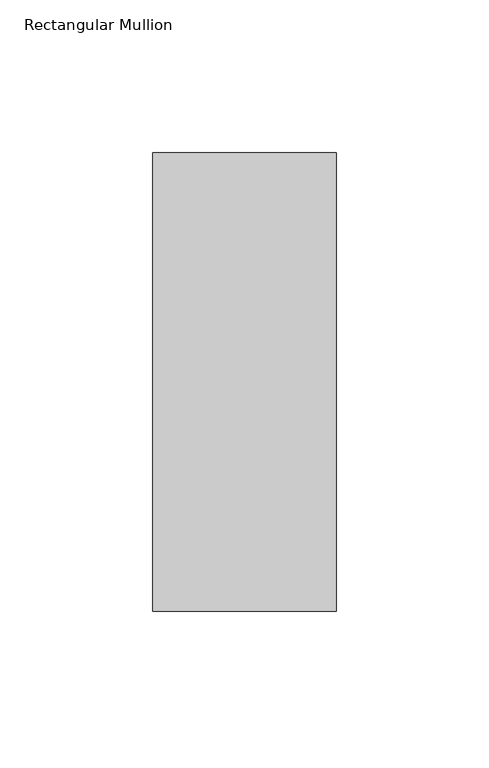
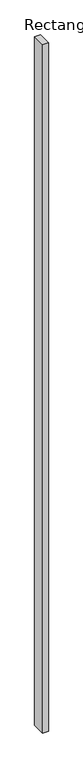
"""IFC4 building model written with IfcOpenShell, lengths in millimetres: member geometry, Rectangular Mullion : TERÇA APARELHADA 6X15 cm."""

from ifc_helpers import new_model, si_unit, frame, origin, place, context, project, spatial, polyline, outline, extrude, source, transform, mapped, element, save


def rectangular_mullion_255870b8(model_context):
    return source(origin(), model_context, "Body", "SweptSolid", [
        extrude(outline(polyline([(30.0, 15.0), (30.0, -135.0), (-30.0, -135.0), (-30.0, 15.0), (30.0, 15.0)])), frame((0.0, 0.0, -7800.0), z_axis=(0.0, 0.0, 1.0), x_axis=(1.0, 0.0, 0.0)), (0.0, 0.0, 1.0), 7800.0),
    ])


if __name__ == "__main__":
    model = new_model("IFC4")
    model_context = context("Model", 3, world=origin())
    ifc_project = project(units=[si_unit("LENGTHUNIT", "METRE", prefix="MILLI")], contexts=[model_context])
    site = spatial("IfcSite", under=ifc_project)
    building = spatial("IfcBuilding", under=site)
    placement = place(None, origin())
    rectangular_mullion_shape = rectangular_mullion_255870b8(model_context)
    element("IfcMember", 1, ObjectType="Rectangular Mullion : TERÇA APARELHADA 6X15 cm", at=placement, inside=building, context=model_context, shape_type="MappedRepresentation", body=[
        mapped(rectangular_mullion_shape, transform((0.0, 0.0, 0.0), x_axis=(1.0, 0.0, 0.0), y_axis=(0.0, 1.0, 0.0), z_axis=(0.0, 0.0, 1.0))),
    ])
    save(model, "model.ifc")
